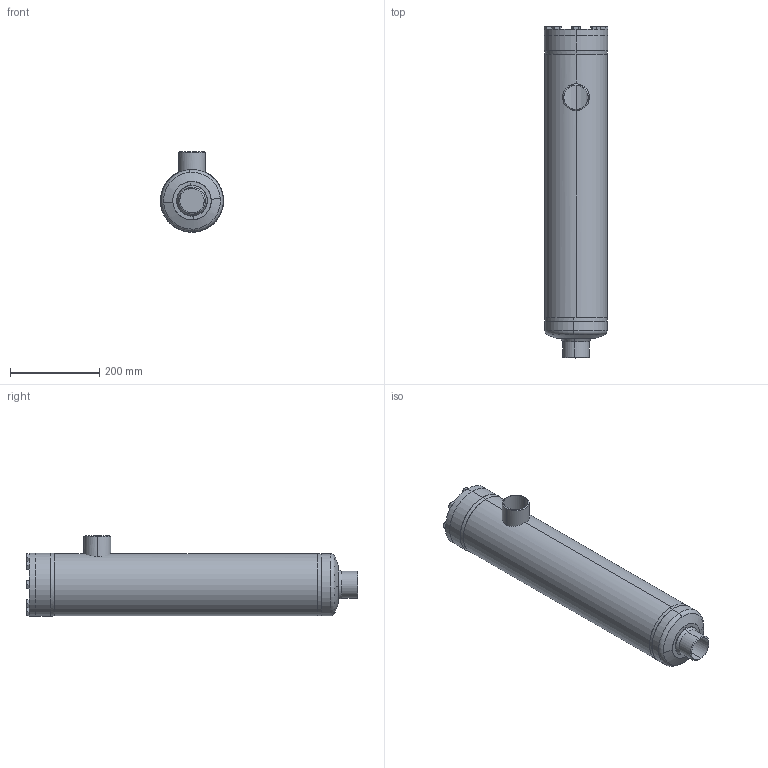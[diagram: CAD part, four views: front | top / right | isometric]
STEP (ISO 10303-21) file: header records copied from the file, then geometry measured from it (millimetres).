
FILE_DESCRIPTION (( 'STEP AP214' ), '1' );
FILE_NAME ('FT56700D15-DN50-4_PS40.STEP', '2010-09-13T08:31:24', ( 'Eckhard Grams' ), ( 'AWP Kälte Klima Armaturen GmbH' ), 'SwSTEP 2.0', 'SolidWorks 2002296', '' );
FILE_SCHEMA (( 'AUTOMOTIVE_DESIGN' ));
Length unit declared in the file: millimetre
Products named in the file (14): FT56700D15-DN50-4_PS40; Geh-kpl-FT-DN50-4_Standard; Gehäuse-FT-DN20-50_PS40_50-4; FT Boden-Führungsrohr DN50_(20-50)_PS25_Standard; Führungsrohr-FT-DN20-50_DN 50; Boden-FT-DN20-80_DN 20 bis 50-4 PN 40; bead-Bo-Fü-20-50_Standard; Rohrstutzen-FT-DN20-80_DN 50 (20-50); Kopfstück-FT-DN20-50_PS40_Standard; bead50-Geh-Ko4_Standard; bead50-Geh-Bo1_Standard; FT Deckel-Schrauben-DN20-50_PS25_Standard; Deckel56700E15-DN20-50_PS40_Standard; Sechskantschraube-DIN933_M12x 30
Assembly tree (20 placements, depth 4):
  FT56700D15-DN50-4_PS40
    FT Deckel-Schrauben-DN20-50_PS25_Standard
      Deckel56700E15-DN20-50_PS40_Standard
      Sechskantschraube-DIN933_M12x 30  x8
    Geh-kpl-FT-DN50-4_Standard
      Rohrstutzen-FT-DN20-80_DN 50 (20-50)
      FT Boden-Führungsrohr DN50_(20-50)_PS25_Standard
        bead-Bo-Fü-20-50_Standard
        Boden-FT-DN20-80_DN 20 bis 50-4 PN 40
        Führungsrohr-FT-DN20-50_DN 50
      Kopfstück-FT-DN20-50_PS40_Standard
      bead50-Geh-Ko4_Standard
      Gehäuse-FT-DN20-50_PS40_50-4
      bead50-Geh-Bo1_Standard
Bounding box: 142.78 x 745.28 x 181 mm (x, y, z)
Volume: 2446255.2 mm3; surface area: 748418.1 mm2
Topology: 17 solids, 17 shells, 401 faces, 874 edges, 514 vertices
Faces by surface type: cone 170, cylinder 109, plane 98, bspline 12, torus 8, sphere 4
Entity records: 11232 total; most frequent: CARTESIAN_POINT 5445, DIRECTION 1150, ORIENTED_EDGE 988, AXIS2_PLACEMENT_3D 494, EDGE_CURVE 494, VERTEX_POINT 304, EDGE_LOOP 280, CIRCLE 254
